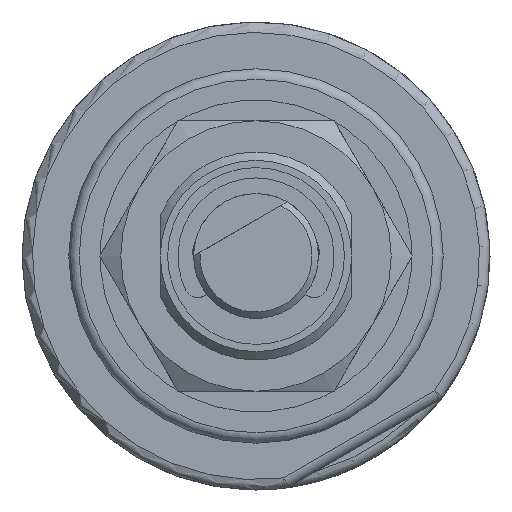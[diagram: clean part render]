
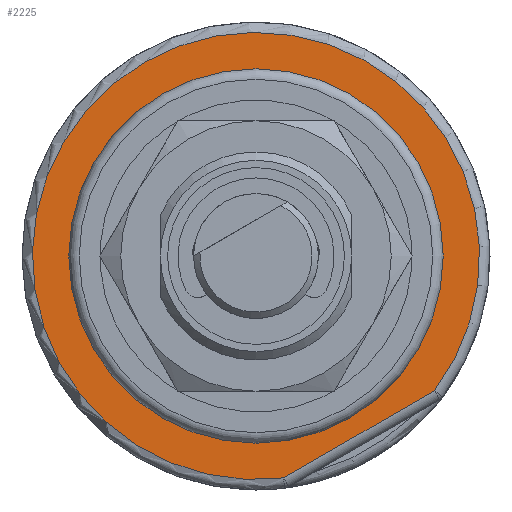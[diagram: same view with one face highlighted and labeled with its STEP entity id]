
A CAD part, front view. The second image highlights one B-rep face of the part: STEP entity #2225.
In plain terms, the highlighted planar face has unit normal (0, -1, 0).
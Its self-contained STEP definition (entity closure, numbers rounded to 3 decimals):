
#9 = FACE_OUTER_BOUND ( 'NONE', #208, .T. ) ;
#43 = AXIS2_PLACEMENT_3D ( 'NONE', #1810, #145, #2024 ) ;
#145 = DIRECTION ( 'NONE',  ( 0., -1., 0. ) ) ;
#186 = DIRECTION ( 'NONE',  ( 0., 1., 0. ) ) ;
#208 = EDGE_LOOP ( 'NONE', ( #2403, #1226 ) ) ;
#226 = CARTESIAN_POINT ( 'NONE',  ( -3.487, 0.5, -13.445 ) ) ;
#250 = EDGE_CURVE ( 'NONE', #1883, #339, #1387, .T. ) ;
#260 = AXIS2_PLACEMENT_3D ( 'NONE', #1109, #186, #727 ) ;
#305 = EDGE_LOOP ( 'NONE', ( #767 ) ) ;
#339 = VERTEX_POINT ( 'NONE', #1661 ) ;
#434 = DIRECTION ( 'NONE',  ( 0., 0., -1. ) ) ;
#467 = EDGE_CURVE ( 'NONE', #339, #1883, #1877, .T. ) ;
#538 = FACE_BOUND ( 'NONE', #305, .T. ) ;
#544 = CARTESIAN_POINT ( 'NONE',  ( 8.578, 0.5, -6.479 ) ) ;
#640 = AXIS2_PLACEMENT_3D ( 'NONE', #1170, #1138, #434 ) ;
#727 = DIRECTION ( 'NONE',  ( 0., 0., 1. ) ) ;
#767 = ORIENTED_EDGE ( 'NONE', *, *, #1973, .F. ) ;
#891 = VECTOR ( 'NONE', #971, 1000. ) ;
#971 = DIRECTION ( 'NONE',  ( 0.866, 0., 0.5 ) ) ;
#1109 = CARTESIAN_POINT ( 'NONE',  ( -11.25, 0.5, 0. ) ) ;
#1138 = DIRECTION ( 'NONE',  ( 0., -1., 0. ) ) ;
#1170 = CARTESIAN_POINT ( 'NONE',  ( 0., 0.5, 0. ) ) ;
#1226 = ORIENTED_EDGE ( 'NONE', *, *, #250, .T. ) ;
#1319 = VERTEX_POINT ( 'NONE', #1525 ) ;
#1387 = CIRCLE ( 'NONE', #43, 10.75 ) ;
#1473 = PLANE ( 'NONE',  #260 ) ;
#1525 = CARTESIAN_POINT ( 'NONE',  ( 0., 0.5, -9. ) ) ;
#1661 = CARTESIAN_POINT ( 'NONE',  ( 1.322, 0.5, -10.668 ) ) ;
#1810 = CARTESIAN_POINT ( 'NONE',  ( 0., 0.5, 0. ) ) ;
#1877 = LINE ( 'NONE', #226, #891 ) ;
#1883 = VERTEX_POINT ( 'NONE', #544 ) ;
#1973 = EDGE_CURVE ( 'NONE', #1319, #1319, #2300, .T. ) ;
#2024 = DIRECTION ( 'NONE',  ( 0., 0., 1. ) ) ;
#2225 = ADVANCED_FACE ( 'NONE', ( #9, #538 ), #1473, .F. ) ;
#2300 = CIRCLE ( 'NONE', #640, 9. ) ;
#2403 = ORIENTED_EDGE ( 'NONE', *, *, #467, .T. ) ;
